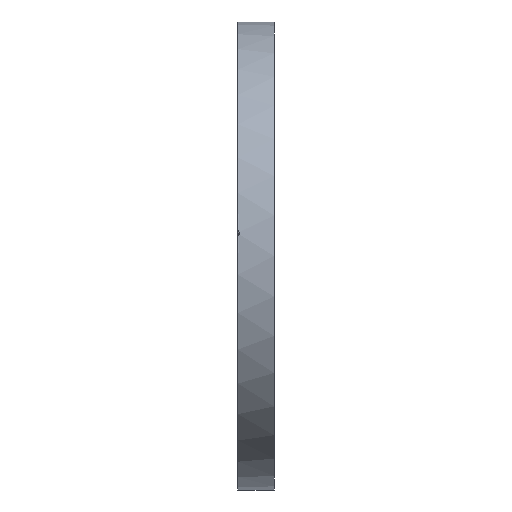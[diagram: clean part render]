
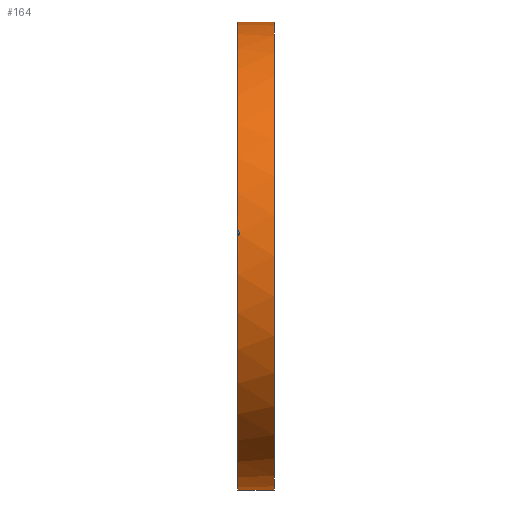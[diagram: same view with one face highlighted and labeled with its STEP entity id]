
A CAD part, left-side view. The second image highlights one B-rep face of the part: STEP entity #164.
In plain terms, the highlighted cylindrical face has radius 184.15 mm (diameter 368.3 mm), a partial arc.
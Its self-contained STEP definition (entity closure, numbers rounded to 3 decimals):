
#19 = CARTESIAN_POINT ( 'NONE',  ( -183.397, 27.847, 16.64 ) ) ;
#97 = CARTESIAN_POINT ( 'NONE',  ( -183.119, 27.847, 19.458 ) ) ;
#113 = CARTESIAN_POINT ( 'NONE',  ( -183.243, 27.5, 18.258 ) ) ;
#122 = CIRCLE ( 'NONE', #2845, 184.15 ) ;
#144 = CARTESIAN_POINT ( 'NONE',  ( 0., 0., 0. ) ) ;
#145 = DIRECTION ( 'NONE',  ( 0., 1., 0. ) ) ;
#164 = ADVANCED_FACE ( 'NONE', ( #1603 ), #2582, .T. ) ;
#319 = LINE ( 'NONE', #2047, #619 ) ;
#329 = DIRECTION ( 'NONE',  ( 0., 0., 1. ) ) ;
#344 = CARTESIAN_POINT ( 'NONE',  ( -183.063, 28.201, 19.978 ) ) ;
#388 = CARTESIAN_POINT ( 'NONE',  ( -183.304, 27.522, 17.631 ) ) ;
#475 = ORIENTED_EDGE ( 'NONE', *, *, #1814, .F. ) ;
#509 = ORIENTED_EDGE ( 'NONE', *, *, #630, .F. ) ;
#538 = CARTESIAN_POINT ( 'NONE',  ( -183.443, 28.201, 16.119 ) ) ;
#575 = CARTESIAN_POINT ( 'NONE',  ( 0., 0., -184.15 ) ) ;
#619 = VECTOR ( 'NONE', #855, 1000. ) ;
#630 = EDGE_CURVE ( 'NONE', #1738, #2747, #2891, .T. ) ;
#660 = CARTESIAN_POINT ( 'NONE',  ( -183.1, 27.954, 19.642 ) ) ;
#814 = CARTESIAN_POINT ( 'NONE',  ( -183.457, 28.342, 15.964 ) ) ;
#818 = CIRCLE ( 'NONE', #2771, 184.15 ) ;
#846 = DIRECTION ( 'NONE',  ( 0., 1., 0. ) ) ;
#855 = DIRECTION ( 'NONE',  ( 0., 1., 0. ) ) ;
#869 = DIRECTION ( 'NONE',  ( 0., 1., 0. ) ) ;
#878 = CARTESIAN_POINT ( 'NONE',  ( -183.284, 27.5, 17.842 ) ) ;
#926 = CARTESIAN_POINT ( 'NONE',  ( 0., 0., -184.15 ) ) ;
#960 = VECTOR ( 'NONE', #869, 1000. ) ;
#974 = ORIENTED_EDGE ( 'NONE', *, *, #2475, .F. ) ;
#1089 = CARTESIAN_POINT ( 'NONE',  ( 0., 28.5, -184.15 ) ) ;
#1170 = EDGE_CURVE ( 'NONE', #2590, #1920, #122, .T. ) ;
#1203 = VERTEX_POINT ( 'NONE', #1089 ) ;
#1281 = ORIENTED_EDGE ( 'NONE', *, *, #2621, .F. ) ;
#1358 = DIRECTION ( 'NONE',  ( 0., 1., 0. ) ) ;
#1359 = CARTESIAN_POINT ( 'NONE',  ( 0., 0., 0. ) ) ;
#1362 = AXIS2_PLACEMENT_3D ( 'NONE', #1359, #145, #329 ) ;
#1428 = B_SPLINE_CURVE_WITH_KNOTS ( 'NONE', 3,
 ( #3012, #814, #538, #2212, #19, #1968, #1513, #388, #878, #113, #2861, #3040, #2604, #97, #660, #344, #2551, #1824 ),
 .UNSPECIFIED., .F., .F.,
 ( 4, 2, 2, 2, 2, 2, 2, 2, 4 ),
 ( 0., 0.001, 0.001, 0.002, 0.003, 0.003, 0.004, 0.004, 0.005 ),
 .UNSPECIFIED. ) ;
#1448 = VERTEX_POINT ( 'NONE', #1909 ) ;
#1513 = CARTESIAN_POINT ( 'NONE',  ( -183.343, 27.61, 17.22 ) ) ;
#1514 = EDGE_CURVE ( 'NONE', #1920, #2747, #319, .T. ) ;
#1586 = DIRECTION ( 'NONE',  ( 0., 0., 1. ) ) ;
#1603 = FACE_OUTER_BOUND ( 'NONE', #2998, .T. ) ;
#1692 = CARTESIAN_POINT ( 'NONE',  ( 0., 28.5, 184.15 ) ) ;
#1738 = VERTEX_POINT ( 'NONE', #2840 ) ;
#1814 = EDGE_CURVE ( 'NONE', #2590, #1203, #2855, .T. ) ;
#1824 = CARTESIAN_POINT ( 'NONE',  ( -183.031, 28.5, 20.274 ) ) ;
#1909 = CARTESIAN_POINT ( 'NONE',  ( -183.469, 28.5, 15.823 ) ) ;
#1920 = VERTEX_POINT ( 'NONE', #2695 ) ;
#1968 = CARTESIAN_POINT ( 'NONE',  ( -183.362, 27.675, 17.022 ) ) ;
#2047 = CARTESIAN_POINT ( 'NONE',  ( 0., 0., 184.15 ) ) ;
#2212 = CARTESIAN_POINT ( 'NONE',  ( -183.413, 27.954, 16.456 ) ) ;
#2410 = CARTESIAN_POINT ( 'NONE',  ( 0., 28.5, 0. ) ) ;
#2468 = DIRECTION ( 'NONE',  ( 0., 1., 0. ) ) ;
#2475 = EDGE_CURVE ( 'NONE', #1203, #1448, #818, .T. ) ;
#2515 = ORIENTED_EDGE ( 'NONE', *, *, #1514, .T. ) ;
#2551 = CARTESIAN_POINT ( 'NONE',  ( -183.046, 28.342, 20.133 ) ) ;
#2582 = CYLINDRICAL_SURFACE ( 'NONE', #1362, 184.15 ) ;
#2590 = VERTEX_POINT ( 'NONE', #575 ) ;
#2604 = CARTESIAN_POINT ( 'NONE',  ( -183.159, 27.675, 19.077 ) ) ;
#2621 = EDGE_CURVE ( 'NONE', #1448, #1738, #1428, .T. ) ;
#2695 = CARTESIAN_POINT ( 'NONE',  ( 0., 0., 184.15 ) ) ;
#2747 = VERTEX_POINT ( 'NONE', #1692 ) ;
#2771 = AXIS2_PLACEMENT_3D ( 'NONE', #2410, #2468, #3121 ) ;
#2823 = CARTESIAN_POINT ( 'NONE',  ( 0., 28.5, 0. ) ) ;
#2838 = DIRECTION ( 'NONE',  ( 0., 0., 1. ) ) ;
#2840 = CARTESIAN_POINT ( 'NONE',  ( -183.031, 28.5, 20.274 ) ) ;
#2845 = AXIS2_PLACEMENT_3D ( 'NONE', #144, #1358, #2838 ) ;
#2855 = LINE ( 'NONE', #926, #960 ) ;
#2861 = CARTESIAN_POINT ( 'NONE',  ( -183.222, 27.522, 18.468 ) ) ;
#2891 = CIRCLE ( 'NONE', #3146, 184.15 ) ;
#2998 = EDGE_LOOP ( 'NONE', ( #475, #3129, #2515, #509, #1281, #974 ) ) ;
#3012 = CARTESIAN_POINT ( 'NONE',  ( -183.469, 28.5, 15.823 ) ) ;
#3040 = CARTESIAN_POINT ( 'NONE',  ( -183.18, 27.61, 18.879 ) ) ;
#3121 = DIRECTION ( 'NONE',  ( 0., 0., 1. ) ) ;
#3129 = ORIENTED_EDGE ( 'NONE', *, *, #1170, .T. ) ;
#3146 = AXIS2_PLACEMENT_3D ( 'NONE', #2823, #846, #1586 ) ;
